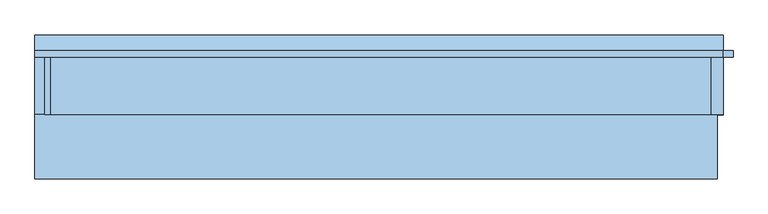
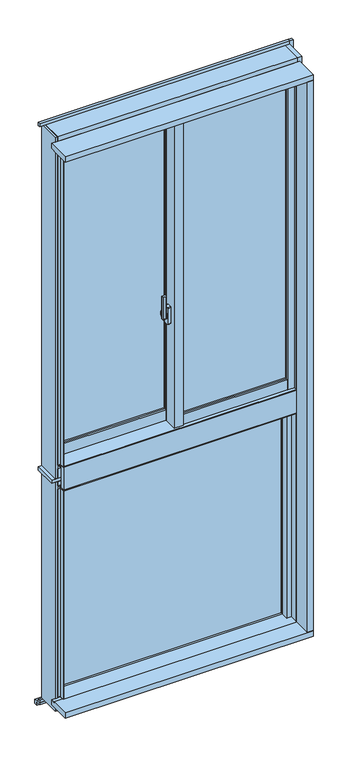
"""IFC4 building model written with IfcOpenShell, lengths in millimetres: window geometry, FNSⅡ100R_非防火_ALC枠_段窓_分解無目 : 隠蔽突出排煙/框ドア."""

import ifcopenshell
import ifcopenshell.guid

model = None  # the IFC model being written
_history = None  # IfcOwnerHistory: only IFC2X3 demands one
_inside = {}  # id of a spatial element -> (the spatial element, [elements in it])
_under = {}  # id of a project, library or spatial element -> (it, [spatial elements below it])
_declared = {}  # id of a project -> (the project, [libraries it declares])
_typed = {}  # id of a type object -> (the type object, [elements of that type])
_made_of = {}  # id of a material, layer set ... -> (it, [elements and type objects made of it])


def new_model(schema):
    """Start an empty IFC model of exactly this schema.

    Asked for "IFC4X3", IfcOpenShell would pick the latest addendum, in which some entities
    have other attributes; the version numbers below select the first issue.
    IFC2X3 requires an IfcOwnerHistory on every rooted entity: one is made here for all.
    """
    global model, _history
    if schema == "IFC4X3":
        model = ifcopenshell.file(schema_version=(4, 3, 0, 0))
    else:
        model = ifcopenshell.file(schema=schema)
    _inside.clear()
    _under.clear()
    _declared.clear()
    _typed.clear()
    _made_of.clear()
    _history = None
    if model.schema == "IFC2X3":
        org = make("IfcOrganization", Name="unknown")
        user = make(
            "IfcPersonAndOrganization",
            ThePerson=make("IfcPerson", FamilyName="unknown"),
            TheOrganization=org,
        )
        app = make(
            "IfcApplication",
            ApplicationDeveloper=org,
            Version="unknown",
            ApplicationFullName="unknown",
            ApplicationIdentifier="unknown",
        )
        _history = make(
            "IfcOwnerHistory",
            OwningUser=user,
            OwningApplication=app,
            ChangeAction="ADDED",
            CreationDate=0,
        )
    return model


def make(cls, **values):
    """One entity of the class cls with the attributes given. An attribute that is None is left unset."""
    return model.create_entity(
        cls, **{name: value for name, value in values.items() if value is not None}
    )


def rooted(cls, **values):
    """An entity with a GlobalId (a new one), such as an element, a storey or a relation."""
    return make(cls, GlobalId=ifcopenshell.guid.new(), OwnerHistory=_history, **values)


def si_unit(unit_type, name, prefix=None):
    """IfcSIUnit, for example si_unit("LENGTHUNIT", "METRE", prefix="MILLI")."""
    return make("IfcSIUnit", UnitType=unit_type, Prefix=prefix, Name=name)


def assignment(units):
    """IfcUnitAssignment: the units of a project."""
    return None if units is None else make("IfcUnitAssignment", Units=units)


def point(xyz):
    """IfcCartesianPoint."""
    return None if xyz is None else make("IfcCartesianPoint", Coordinates=xyz)


def direction(xyz):
    """IfcDirection."""
    return None if xyz is None else make("IfcDirection", DirectionRatios=xyz)


def frame(location, z_axis=None, x_axis=None):
    """IfcAxis2Placement3D, a coordinate frame: its origin and axes. An axis left out is left unset."""
    return make(
        "IfcAxis2Placement3D",
        Location=point(location),
        Axis=direction(z_axis),
        RefDirection=direction(x_axis),
    )


def frame_2d(location, x_axis=None):
    """IfcAxis2Placement2D, a coordinate frame in the plane: its origin and x axis."""
    return make(
        "IfcAxis2Placement2D", Location=point(location), RefDirection=direction(x_axis)
    )


def origin():
    """The frame at (0, 0, 0) with its axes left unset."""
    return frame((0.0, 0.0, 0.0))


def place(relative_to, where):
    """IfcLocalPlacement: puts the frame where relative to a parent placement (None: the world)."""
    return make(
        "IfcLocalPlacement", PlacementRelTo=relative_to, RelativePlacement=where
    )


def context(
    kind, dimensions, precision=None, world=None, true_north=None, identifier=None
):
    """IfcGeometricRepresentationContext, for example the 3D "Model" context."""
    return make(
        "IfcGeometricRepresentationContext",
        ContextIdentifier=identifier,
        ContextType=kind,
        CoordinateSpaceDimension=dimensions,
        Precision=precision,
        WorldCoordinateSystem=world,
        TrueNorth=true_north,
    )


def project(units=None, contexts=None):
    """IfcProject with its units and contexts."""
    return rooted(
        "IfcProject",
        Name="project",
        RepresentationContexts=contexts,
        UnitsInContext=assignment(units),
    )


def spatial(cls, under=None, at=None, **own):
    """A site, building, storey or space (cls), placed at a placement, below another one or the project."""
    s = rooted(cls, ObjectPlacement=at, **own)
    if under is not None:
        _under.setdefault(under.id(), (under, []))[1].append(s)
    return s


def polyline(points):
    """IfcPolyline through the points."""
    return make("IfcPolyline", Points=[point(p) for p in points])


def circle_curve(where, radius):
    """IfcCircle in the frame where."""
    return make("IfcCircle", Position=where, Radius=radius)


def trimmed(basis, trim1, trim2, sense, master):
    """IfcTrimmedCurve: the piece of a basis curve between two trims."""
    return make(
        "IfcTrimmedCurve",
        BasisCurve=basis,
        Trim1=trim1,
        Trim2=trim2,
        SenseAgreement=sense,
        MasterRepresentation=master,
    )


def segment(curve, same_sense, transition):
    """IfcCompositeCurveSegment."""
    return make(
        "IfcCompositeCurveSegment",
        Transition=transition,
        SameSense=same_sense,
        ParentCurve=curve,
    )


def composite_curve(segments, self_intersect=None):
    """IfcCompositeCurve: segments joined end to end."""
    return make("IfcCompositeCurve", Segments=segments, SelfIntersect=self_intersect)


def outline(outer, holes=None, kind="AREA"):
    """IfcArbitraryClosedProfileDef: a profile drawn as a closed curve; with holes, ...WithVoids."""
    if holes is None:
        return make("IfcArbitraryClosedProfileDef", ProfileType=kind, OuterCurve=outer)
    return make(
        "IfcArbitraryProfileDefWithVoids",
        ProfileType=kind,
        OuterCurve=outer,
        InnerCurves=holes,
    )


def extrude(swept, where, along, depth):
    """IfcExtrudedAreaSolid: the profile swept, set in the frame where, extruded along a direction by depth."""
    return make(
        "IfcExtrudedAreaSolid",
        SweptArea=swept,
        Position=where,
        ExtrudedDirection=direction(along),
        Depth=depth,
    )


def faces_of(points, faces, orient=None, outer=None):
    """IfcFace entities. A face is a list of loops; a loop is a list of indices into points, from 0.

    orient and outer hold one flag for each loop. By default every Orientation is true, the
    first loop of a face is its IfcFaceOuterBound and the others are IfcFaceBound.
    """
    made = []
    for i, loops in enumerate(faces):
        bounds = []
        for j, loop in enumerate(loops):
            is_outer = j == 0 if outer is None else outer[i][j]
            bounds.append(
                make(
                    "IfcFaceOuterBound" if is_outer else "IfcFaceBound",
                    Bound=make("IfcPolyLoop", Polygon=[points[k] for k in loop]),
                    Orientation=True if orient is None else orient[i][j],
                )
            )
        made.append(make("IfcFace", Bounds=bounds))
    return made


def faceted_brep(points, faces, orient=None, outer=None, voids=None):
    """IfcFacetedBrep: a solid bounded by flat faces; with voids (closed shells), ...WithVoids."""
    shared = [point(p) for p in points]
    hull = make("IfcClosedShell", CfsFaces=faces_of(shared, faces, orient, outer))
    if voids is None:
        return make("IfcFacetedBrep", Outer=hull)
    return make(
        "IfcFacetedBrepWithVoids",
        Outer=hull,
        Voids=[
            make(cls, CfsFaces=faces_of(shared, fs, o, b)) for cls, fs, o, b in voids
        ],
    )


def shape(context_of_items, identifier, shape_type, items):
    """IfcShapeRepresentation: the items that make up one representation, for example the "Body"."""
    return make(
        "IfcShapeRepresentation",
        ContextOfItems=context_of_items,
        RepresentationIdentifier=identifier,
        RepresentationType=shape_type,
        Items=items,
    )


def source(mapping_origin, context_of_items, identifier, shape_type, items):
    """IfcRepresentationMap: a shape defined once, which mapped items show again and again."""
    return make(
        "IfcRepresentationMap",
        MappingOrigin=mapping_origin,
        MappedRepresentation=shape(context_of_items, identifier, shape_type, items),
    )


def transform(
    local_origin,
    x_axis=None,
    y_axis=None,
    z_axis=None,
    scale=None,
    scale2=None,
    scale3=None,
    uniform=True,
):
    """IfcCartesianTransformationOperator3D, or its non-uniform kind. x_axis, y_axis, z_axis: its Axis1, 2, 3."""
    if uniform:
        return make(
            "IfcCartesianTransformationOperator3D",
            Axis1=direction(x_axis),
            Axis2=direction(y_axis),
            LocalOrigin=point(local_origin),
            Scale=scale,
            Axis3=direction(z_axis),
        )
    return make(
        "IfcCartesianTransformationOperator3DnonUniform",
        Axis1=direction(x_axis),
        Axis2=direction(y_axis),
        LocalOrigin=point(local_origin),
        Scale=scale,
        Axis3=direction(z_axis),
        Scale2=scale2,
        Scale3=scale3,
    )


def mapped(mapping_source, mapping_target):
    """IfcMappedItem: shows the shape of a source again, moved by a transform."""
    return make(
        "IfcMappedItem", MappingSource=mapping_source, MappingTarget=mapping_target
    )


def made_of(thing, what):
    """Note that an element or type object is made of a material, layer set ...; save() writes the relation."""
    if what is not None:
        _made_of.setdefault(what.id(), (what, []))[1].append(thing)
    return thing


def element(
    cls,
    number,
    at=None,
    inside=None,
    cuts=None,
    type_object=None,
    material=None,
    context=None,
    identifier="Body",
    shape_type=None,
    held_by="IfcProductDefinitionShape",
    body=None,
    shapes=None,
    **own,
):
    """One element of the class cls, such as IfcWall. Its Tag is "e" and its number.

    at: its placement. inside: the storey or other place that contains it. cuts: it is an
    opening in that element (IfcRelVoidsElement). A single representation is given by context,
    identifier, shape_type and body (its items); several are given by shapes. held_by: the class
    of the entity that holds the representations. save() writes the other relations.
    """
    e = rooted(cls, Tag="e%d" % number, ObjectPlacement=at, **own)
    if body is not None:
        shapes = [shape(context, identifier, shape_type, body)]
    if shapes is not None:
        e.Representation = make(held_by, Representations=shapes)
    if inside is not None:
        _inside.setdefault(inside.id(), (inside, []))[1].append(e)
    if cuts is not None:
        rooted(
            "IfcRelVoidsElement", RelatingBuildingElement=cuts, RelatedOpeningElement=e
        )
    if type_object is not None:
        _typed.setdefault(type_object.id(), (type_object, []))[1].append(e)
    return made_of(e, material)


def aggregate(whole, parts):
    """IfcRelAggregates: a whole, such as a stair, and the parts it consists of."""
    return rooted("IfcRelAggregates", RelatingObject=whole, RelatedObjects=parts)


def save(model, path):
    """Write the relations noted so far, then the file.

    IfcRelAggregates (storeys below a building ...), IfcRelContainedInSpatialStructure (elements
    in a storey), IfcRelDefinesByType, IfcRelAssociatesMaterial and IfcRelDeclares: one each for
    every whole, place, type object, material and project.
    """
    for whole, parts in _under.values():
        aggregate(whole, parts)
    for where, things in _inside.values():
        rooted(
            "IfcRelContainedInSpatialStructure",
            RelatedElements=things,
            RelatingStructure=where,
        )
    for kind, things in _typed.values():
        rooted("IfcRelDefinesByType", RelatedObjects=things, RelatingType=kind)
    for what, things in _made_of.values():
        rooted("IfcRelAssociatesMaterial", RelatedObjects=things, RelatingMaterial=what)
    for by, libraries in _declared.values():
        rooted("IfcRelDeclares", RelatingContext=by, RelatedDefinitions=libraries)
    model.write(path)


def plane_surface(at):
    """IfcPlane: the flat surface through the origin of the frame at, square to its z axis."""
    return make("IfcPlane", Position=at)


def cylinder_surface(at, radius):
    """IfcCylindricalSurface: all points at the distance radius from the z axis of the frame at."""
    return make("IfcCylindricalSurface", Position=at, Radius=radius)


def revolved_surface(curve, axis_point, axis_direction):
    """IfcSurfaceOfRevolution: the curve turned about the line through axis_point along axis_direction."""
    return make(
        "IfcSurfaceOfRevolution",
        SweptCurve=make("IfcArbitraryOpenProfileDef", ProfileType="CURVE", Curve=curve),
        AxisPosition=make("IfcAxis1Placement", Location=point(axis_point), Axis=direction(axis_direction)),
    )


def advanced_brep(points, edges, surfaces, faces):
    """IfcAdvancedBrep: a solid bounded by faces that lie on surfaces and meet in shared edges.

    An edge is (start, end): straight between two places in points (the first is 0);
    or (start, end, curve); or (start, end, curve, False) where it runs against its curve.
    A face is (place in surfaces, loops), or (place, loops, False) where it looks against
    its surface's normal. A loop lists edges by number (the first is 1), with a minus sign
    where the edge is run from its end to its start. The first loop is the outer one.
    """
    corners = [point(p) for p in points]
    vertices = [make("IfcVertexPoint", VertexGeometry=c) for c in corners]
    made = []
    for start, end, *more in edges:
        made.append(
            make(
                "IfcEdgeCurve",
                EdgeStart=vertices[start],
                EdgeEnd=vertices[end],
                EdgeGeometry=more[0] if more else make("IfcPolyline", Points=[corners[start], corners[end]]),
                SameSense=more[1] if len(more) > 1 else True,
            )
        )
    hull = []
    for where, loops, *sense in faces:
        bounds = []
        for j, loop in enumerate(loops):
            ring = [make("IfcOrientedEdge", EdgeElement=made[abs(k) - 1], Orientation=k > 0) for k in loop]
            bounds.append(
                make(
                    "IfcFaceOuterBound" if j == 0 else "IfcFaceBound",
                    Bound=make("IfcEdgeLoop", EdgeList=ring),
                    Orientation=True,
                )
            )
        hull.append(make("IfcAdvancedFace", Bounds=bounds, FaceSurface=surfaces[where], SameSense=sense[0] if sense else True))
    return make("IfcAdvancedBrep", Outer=make("IfcClosedShell", CfsFaces=hull))


def window_2282232d(model_context):
    return source(origin(), model_context, "Body", "SolidModel", [
        extrude(outline(composite_curve([segment(polyline([(-39.0, 14.6), (-39.0, 6.4)]), True, "CONTINUOUS"), segment(trimmed(circle_curve(frame_2d((-41.0, 6.4)), 2.0), [point((-39.0, 6.4))], [point((-41.3606557, 4.4327869))], False, "CARTESIAN"), True, "CONTINUOUS"), segment(polyline([(-41.3606557, 4.4327869), (-52.3606557, 6.4494536)]), True, "CONTINUOUS"), segment(trimmed(circle_curve(frame_2d((-52.0, 8.4166667)), 2.0), [point((-52.3606557, 6.4494536))], [point((-54.0, 8.4166667))], False, "CARTESIAN"), True, "CONTINUOUS"), segment(polyline([(-54.0, 8.4166667), (-54.0, 12.5833333)]), True, "CONTINUOUS"), segment(trimmed(circle_curve(frame_2d((-52.0, 12.5833333)), 2.0), [point((-54.0, 12.5833333))], [point((-52.3606557, 14.5505464))], False, "CARTESIAN"), True, "CONTINUOUS"), segment(polyline([(-52.3606557, 14.5505464), (-41.3606557, 16.5672131)]), True, "CONTINUOUS"), segment(trimmed(circle_curve(frame_2d((-41.0, 14.6)), 2.0), [point((-41.3606557, 16.5672131))], [point((-39.0, 14.6))], False, "CARTESIAN"), True, "CONTINUOUS")], self_intersect=False)), frame((0.0, 0.0, 2445.0), z_axis=(0.0, 0.0, 1.0), x_axis=(1.0, 0.0, 0.0)), (0.0, 0.0, 1.0), 100.0),
        advanced_brep(
        [(-37.5, 18.8234285, 2476.7333311), (-45.5, 18.8234285, 2476.7333311), (-45.5, 18.4351999, 2475.2844424), (-39.0, 18.4351999, 2475.2844424), (-39.0, 16.6234666, 2468.5229616), (-37.5, 16.6234666, 2468.5229616), (-39.0, 16.6466117, 2434.3190372), (-45.5, 16.6466117, 2434.3190372), (-45.5, 16.907084, 2432.8418256), (-37.5, 16.907084, 2432.8418256), (-37.5, 15.4310745, 2441.2126915), (-39.0, 15.4310745, 2441.2126915)],
        [
            (0, 1),
            (1, 2),
            (2, 3),
            (3, 4),
            (4, 5),
            (5, 0),
            (6, 7),
            (7, 8),
            (8, 9),
            (9, 10),
            (10, 11),
            (11, 6),
            (0, 9, circle_curve(frame((-37.5, 13.0, 2455.0), z_axis=(-1.0, 0.0, 0.0), x_axis=(0.0, 0.25881904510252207, 0.965925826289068)), 22.5)),
            (8, 1, circle_curve(frame((-45.5, 13.0, 2455.0), z_axis=(1.0, 0.0, 0.0), x_axis=(0.0, 0.25881904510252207, 0.965925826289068)), 22.5)),
            (7, 2, circle_curve(frame((-45.5, 13.0, 2455.0), z_axis=(1.0, 0.0, 0.0), x_axis=(0.0, 0.25881904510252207, 0.965925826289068)), 21.0)),
            (6, 3, circle_curve(frame((-39.0, 13.0, 2455.0), z_axis=(1.0, 0.0, 0.0), x_axis=(0.0, 0.25881904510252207, 0.965925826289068)), 21.0)),
            (11, 4, circle_curve(frame((-39.0, 13.0, 2455.0), z_axis=(-1.0, 0.0, 0.0), x_axis=(0.0, -1.0, 0.0)), 14.0)),
            (5, 10, circle_curve(frame((-37.5, 13.0, 2455.0), z_axis=(1.0, 0.0, 0.0), x_axis=(0.0, -1.0, 0.0)), 14.0)),
        ],
        [
            plane_surface(frame((-43.5470497, 13.0, 2455.0), z_axis=(0.0, -0.965925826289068, 0.25881904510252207), x_axis=(0.0, 0.25881904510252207, 0.965925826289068))),
            plane_surface(frame((-43.5470497, 13.0, 2455.0), z_axis=(0.0, -0.9848077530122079, -0.17364817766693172), x_axis=(0.0, 0.17364817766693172, -0.9848077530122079))),
            cylinder_surface(frame((-43.5470497, 13.0, 2455.0), z_axis=(-1.0, 0.0, 0.0), x_axis=(0.0, 0.25881904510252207, 0.965925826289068)), 22.5),
            plane_surface(frame((-45.5, 13.0, 2455.0), z_axis=(-1.0, 0.0, 0.0), x_axis=(0.0, 0.25881904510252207, 0.965925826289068))),
            revolved_surface(polyline([(-45.5, 18.435199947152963, 2475.2844423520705), (-39.0, 18.435199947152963, 2475.2844423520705)]), (-43.5470497, 13.0, 2455.0), (-1.0, 0.0, 0.0)),
            plane_surface(frame((-39.0, 13.0, 2455.0), z_axis=(-1.0, 0.0, 0.0), x_axis=(0.0, 0.25881904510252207, 0.965925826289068))),
            plane_surface(frame((-37.5, 13.0, 2455.0), z_axis=(1.0, 0.0, 0.0), x_axis=(0.0, 0.25881904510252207, 0.965925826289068))),
            cylinder_surface(frame((-37.5, 13.0, 2455.0), z_axis=(-1.0, 0.0, 0.0), x_axis=(0.0, -1.0, 0.0)), 14.0),
        ],
        [
            (0, [[1, 2, 3, 4, 5, 6]]),
            (1, [[7, 8, 9, 10, 11, 12]]),
            (2, [[-1, 13, -9, 14]]),
            (3, [[-2, -14, -8, 15]]),
            (4, [[-3, -15, -7, 16]]),
            (5, [[-16, -12, 17, -4]]),
            (6, [[-13, -6, 18, -10]]),
            (7, [[-17, -11, -18, -5]]),
        ],
    ),
        extrude(outline(composite_curve([segment(trimmed(circle_curve(frame_2d((13.0, 2455.0)), 11.5), [point((24.5, 2455.0))], [point((1.5, 2455.0))], False, "CARTESIAN"), True, "CONTINUOUS"), segment(trimmed(circle_curve(frame_2d((13.0, 2455.0)), 11.5), [point((1.5, 2455.0))], [point((24.5, 2455.0))], False, "CARTESIAN"), True, "CONTINUOUS")], self_intersect=False)), frame((-37.5, 0.0, 0.0), z_axis=(1.0, 0.0, 0.0), x_axis=(0.0, 1.0, 0.0)), (0.0, 0.0, 1.0), 2.5),
        extrude(outline(composite_curve([segment(polyline([(4.0, 2492.5), (22.0, 2492.5)]), True, "CONTINUOUS"), segment(trimmed(circle_curve(frame_2d((22.0, 2490.5)), 2.0), [point((22.0, 2492.5))], [point((24.0, 2490.5))], False, "CARTESIAN"), True, "CONTINUOUS"), segment(polyline([(24.0, 2490.5), (24.0, 2419.5)]), True, "CONTINUOUS"), segment(trimmed(circle_curve(frame_2d((22.0, 2419.5)), 2.0), [point((24.0, 2419.5))], [point((22.0, 2417.5))], False, "CARTESIAN"), True, "CONTINUOUS"), segment(polyline([(22.0, 2417.5), (4.0, 2417.5)]), True, "CONTINUOUS"), segment(trimmed(circle_curve(frame_2d((4.0, 2419.5)), 2.0), [point((4.0, 2417.5))], [point((2.0, 2419.5))], False, "CARTESIAN"), True, "CONTINUOUS"), segment(polyline([(2.0, 2419.5), (2.0, 2490.5)]), True, "CONTINUOUS"), segment(trimmed(circle_curve(frame_2d((4.0, 2490.5)), 2.0), [point((2.0, 2490.5))], [point((4.0, 2492.5))], False, "CARTESIAN"), True, "CONTINUOUS")], self_intersect=False)), frame((-35.0, 0.0, 0.0), z_axis=(1.0, 0.0, 0.0), x_axis=(0.0, 1.0, 0.0)), (0.0, 0.0, 1.0), 15.0),
        extrude(outline(polyline([(20.0, 4.0), (468.0, 4.0), (468.0, -2.0), (20.0, -2.0), (20.0, 4.0)])), frame((0.0, 0.0, 2003.0), z_axis=(0.0, 0.0, 1.0), x_axis=(1.0, 0.0, 0.0)), (0.0, 0.0, 1.0), 1357.0),
        extrude(outline(polyline([(20.0, 22.0), (468.0, 22.0), (468.0, 16.0), (20.0, 16.0), (20.0, 22.0)])), frame((0.0, 0.0, 2003.0), z_axis=(0.0, 0.0, 1.0), x_axis=(1.0, 0.0, 0.0)), (0.0, 0.0, 1.0), 1357.0),
        extrude(outline(polyline([(-468.0, 62.0), (-20.0, 62.0), (-20.0, 56.0), (-468.0, 56.0), (-468.0, 62.0)])), frame((0.0, 0.0, 2003.0), z_axis=(0.0, 0.0, 1.0), x_axis=(1.0, 0.0, 0.0)), (0.0, 0.0, 1.0), 1357.0),
        extrude(outline(polyline([(-468.0, 80.0), (-20.0, 80.0), (-20.0, 74.0), (-468.0, 74.0), (-468.0, 80.0)])), frame((0.0, 0.0, 2003.0), z_axis=(0.0, 0.0, 1.0), x_axis=(1.0, 0.0, 0.0)), (0.0, 0.0, 1.0), 1357.0),
        faceted_brep([(-489.5, 59.0, 3400.0), (-500.0, 59.0, 3400.0), (-500.0, 59.0, 1915.0), (-468.0, 59.0, 1915.0), (-468.0, 59.0, 1955.0), (-489.5, 59.0, 1955.0), (-489.5, 46.0, 3400.0), (-489.5, 46.0, 1955.0), (-468.0, 88.0, 3400.0), (-468.0, 46.0, 3400.0), (-468.0, 46.0, 1955.0), (-468.0, 88.0, 1915.0), (-500.0, 88.0, 3400.0), (-500.0, 88.0, 1915.0)], [[[0, 1, 2, 3, 4, 5]], [[6, 0, 5, 7]], [[8, 9, 10, 4, 3, 11]], [[1, 0, 6, 9, 8, 12]], [[3, 2, 13, 11]], [[9, 6, 7, 10]], [[12, 8, 11, 13]], [[2, 1, 12, 13]], [[5, 4, 10, 7]]]),
        faceted_brep([(-1.8, 33.1, 3400.0), (-1.8, 45.5, 3400.0), (-1.8, 45.5, 1955.0), (-1.8, 33.1, 1955.0), (-20.0, 45.5, 3400.0), (20.0, 33.1, 3400.0), (20.0, 88.0, 3400.0), (-20.0, 88.0, 3400.0), (-20.0, 88.0, 1915.0), (20.0, 88.0, 1915.0), (20.0, 59.0, 1915.0), (-20.0, 59.0, 1915.0), (-20.0, 45.5, 1955.0), (20.0, 33.1, 1955.0), (20.0, 59.0, 1955.0), (-20.0, 59.0, 1955.0)], [[[0, 1, 2, 3]], [[4, 1, 0, 5, 6, 7]], [[8, 9, 10, 11]], [[1, 4, 12, 2]], [[5, 0, 3, 13]], [[6, 5, 13, 14, 10, 9]], [[7, 6, 9, 8]], [[4, 7, 8, 11, 15, 12]], [[14, 15, 11, 10]], [[15, 14, 13, 3, 2, 12]]]),
        extrude(outline(polyline([(-20.0, 33.1), (-15.0, 33.1), (-15.0, -12.0), (15.0, -12.0), (15.0, -8.0), (20.0, -8.0), (20.0, -20.0), (-20.0, -20.0), (-20.0, 33.1)])), frame((0.0, 0.0, 1955.0), z_axis=(0.0, 0.0, 1.0), x_axis=(1.0, 0.0, 0.0)), (0.0, 0.0, 1.0), 1445.0),
        extrude(outline(polyline([(-15.0, 33.1), (20.0, 33.1), (20.0, -8.0), (15.0, -8.0), (15.0, -12.0), (-15.0, -12.0), (-15.0, 33.1)])), frame((0.0, 0.0, 1955.0), z_axis=(0.0, 0.0, 1.0), x_axis=(1.0, 0.0, 0.0)), (0.0, 0.0, 1.0), 1445.0),
        extrude(outline(polyline([(468.0, -20.0), (468.0, -12.0), (489.5, -12.0), (489.5, 1.0), (497.0, 1.0), (497.0, -20.0), (468.0, -20.0)])), frame((0.0, 0.0, 1958.0), z_axis=(0.0, 0.0, 1.0), x_axis=(1.0, 0.0, 0.0)), (0.0, 0.0, 1.0), 1442.0),
        extrude(outline(polyline([(468.0, 30.0), (500.0, 30.0), (500.0, 1.0), (489.5, 1.0), (489.5, -12.0), (468.0, -12.0), (468.0, 30.0)])), frame((0.0, 0.0, 1955.0), z_axis=(0.0, 0.0, 1.0), x_axis=(1.0, 0.0, 0.0)), (0.0, 0.0, 1.0), 1445.0),
        extrude(outline(polyline([(-1.85, 45.5), (-1.85, 38.0), (-20.0, 38.0), (-20.0, 45.5), (-1.85, 45.5)])), frame((0.0, 0.0, 1955.0), z_axis=(0.0, 0.0, 1.0), x_axis=(1.0, 0.0, 0.0)), (0.0, 0.0, 1.0), 1445.0),
        extrude(outline(polyline([(-497.0, 59.0), (-489.5, 59.0), (-489.5, 46.0), (-468.0, 46.0), (-468.0, 38.0), (-497.0, 38.0), (-497.0, 59.0)])), frame((0.0, 0.0, 1955.0), z_axis=(0.0, 0.0, 1.0), x_axis=(1.0, 0.0, 0.0)), (0.0, 0.0, 1.0), 1445.0),
        extrude(outline(polyline([(-18.0, 1958.0), (-18.0, 2003.0), (-10.0, 2003.0), (-10.0, 1980.5), (1.0, 1980.5), (1.0, 1958.0), (-18.0, 1958.0)])), frame((20.0, 0.0, 0.0), z_axis=(1.0, 0.0, 0.0), x_axis=(0.0, 1.0, 0.0)), (0.0, 0.0, 1.0), 448.0),
        extrude(outline(polyline([(30.0, 1955.0), (1.0, 1955.0), (1.0, 1980.5), (-10.0, 1980.5), (-10.0, 2003.0), (30.0, 2003.0), (30.0, 1955.0)])), frame((20.0, 0.0, 0.0), z_axis=(1.0, 0.0, 0.0), x_axis=(0.0, 1.0, 0.0)), (0.0, 0.0, 1.0), 448.0),
        extrude(outline(polyline([(40.0, 2003.0), (48.0, 2003.0), (48.0, 1980.5), (59.0, 1980.5), (59.0, 1955.0), (40.0, 1955.0), (40.0, 2003.0)])), frame((-468.0, 0.0, 0.0), z_axis=(1.0, 0.0, 0.0), x_axis=(0.0, 1.0, 0.0)), (0.0, 0.0, 1.0), 448.0),
        extrude(outline(polyline([(88.0, 1915.0), (59.0, 1915.0), (59.0, 1980.5), (48.0, 1980.5), (48.0, 2003.0), (88.0, 2003.0), (88.0, 1915.0)])), frame((-468.0, 0.0, 0.0), z_axis=(1.0, 0.0, 0.0), x_axis=(0.0, 1.0, 0.0)), (0.0, 0.0, 1.0), 448.0),
        extrude(outline(polyline([(3.0, 3380.5), (-10.0, 3380.5), (-10.0, 3360.0), (-18.0, 3360.0), (-18.0, 3400.0), (3.0, 3400.0), (3.0, 3380.5)])), frame((20.0, 0.0, 0.0), z_axis=(1.0, 0.0, 0.0), x_axis=(0.0, 1.0, 0.0)), (0.0, 0.0, 1.0), 448.0),
        extrude(outline(polyline([(30.0, 3400.0), (30.0, 3360.0), (-10.0, 3360.0), (-10.0, 3380.5), (3.0, 3380.5), (3.0, 3400.0), (30.0, 3400.0)])), frame((20.0, 0.0, 0.0), z_axis=(1.0, 0.0, 0.0), x_axis=(0.0, 1.0, 0.0)), (0.0, 0.0, 1.0), 448.0),
        extrude(outline(polyline([(61.0, 3380.5), (48.0, 3380.5), (48.0, 3360.0), (40.0, 3360.0), (40.0, 3400.0), (61.0, 3400.0), (61.0, 3380.5)])), frame((-468.0, 0.0, 0.0), z_axis=(1.0, 0.0, 0.0), x_axis=(0.0, 1.0, 0.0)), (0.0, 0.0, 1.0), 448.0),
        extrude(outline(polyline([(88.0, 3400.0), (88.0, 3360.0), (48.0, 3360.0), (48.0, 3380.5), (61.0, 3380.5), (61.0, 3400.0), (88.0, 3400.0)])), frame((-468.0, 0.0, 0.0), z_axis=(1.0, 0.0, 0.0), x_axis=(0.0, 1.0, 0.0)), (0.0, 0.0, 1.0), 448.0),
        extrude(outline(polyline([(-15.0, 60.3), (-15.0, 11.9), (-500.0, 11.9), (-500.0, 60.3), (-15.0, 60.3)])), frame((0.0, 0.0, 3400.0), z_axis=(0.0, 0.0, 1.0), x_axis=(1.0, 0.0, 0.0)), (0.0, 0.0, 1.0), 25.0),
        faceted_brep([(515.0, -10.0, 3425.0), (515.0, -10.0, 3445.0), (-515.0, -10.0, 3445.0), (-515.0, -10.0, 3425.0), (-515.0, 90.0, 3400.0), (-515.0, 60.3, 3400.0), (-515.0, 60.3, 3425.0), (-515.0, 90.0, 3445.0), (515.0, 60.3, 3425.0), (-15.0, 60.3, 3425.0), (-15.0, 11.9, 3425.0), (500.0, 11.9, 3425.0), (500.0, 60.3, 3425.0), (-15.0, 60.3, 3400.0), (515.0, 60.3, 3400.0), (500.0, 60.3, 3400.0), (515.0, 90.0, 3400.0), (500.0, 11.9, 3400.0), (-15.0, 11.9, 3400.0), (515.0, 90.0, 3445.0)], [[[0, 1, 2, 3]], [[4, 5, 6, 3, 2, 7]], [[8, 0, 3, 6, 9, 10, 11, 12]], [[6, 5, 13, 9]], [[14, 8, 12, 15]], [[16, 14, 15, 17, 18, 13, 5, 4]], [[19, 16, 4, 7]], [[1, 19, 7, 2]], [[16, 19, 1, 0, 8, 14]], [[11, 17, 15, 12]], [[13, 18, 10, 9]], [[17, 11, 10, 18]]]),
        extrude(outline(polyline([(11.9, 3400.0), (-30.0, 3400.0), (-30.0, 3403.0), (-10.0, 3403.0), (-10.0, 3425.0), (11.9, 3425.0), (11.9, 3400.0)])), frame((-500.0, 0.0, 0.0), z_axis=(1.0, 0.0, 0.0), x_axis=(0.0, 1.0, 0.0)), (0.0, 0.0, 1.0), 1000.0),
        faceted_brep([(500.0, -10.0, 3420.0), (515.0, -10.0, 3420.0), (515.0, -5.5, 3420.0), (500.0, -5.5, 3420.0), (500.0, -30.0, 1955.0), (503.0, -30.0, 1955.0), (503.0, -30.0, 3403.0), (500.0, -30.0, 3403.0), (515.0, -5.5, 1955.0), (500.0, -5.5, 1955.0), (500.0, -10.0, 3403.0), (503.0, -10.0, 3403.0), (515.0, -10.0, 1955.0), (503.0, -10.0, 1955.0)], [[[0, 1, 2, 3]], [[4, 5, 6, 7]], [[3, 2, 8, 9]], [[9, 4, 7, 10, 0, 3]], [[11, 10, 7, 6]], [[4, 9, 8, 12, 13, 5]], [[5, 13, 11, 6]], [[0, 10, 11, 13, 12, 1]], [[2, 1, 12, 8]]]),
        faceted_brep([(-515.0, -10.0, 1955.0), (-503.0, -10.0, 1955.0), (-503.0, -10.0, 3403.0), (-500.0, -10.0, 3403.0), (-500.0, -10.0, 3420.0), (-515.0, -10.0, 3420.0), (-503.0, -30.0, 3403.0), (-500.0, -30.0, 3403.0), (-515.0, 56.0, 3420.0), (-500.0, 56.0, 3420.0), (-500.0, 56.0, 1955.0), (-515.0, 56.0, 1955.0), (-500.0, -30.0, 1955.0), (-503.0, -30.0, 1955.0)], [[[0, 1, 2, 3, 4, 5]], [[3, 2, 6, 7]], [[8, 9, 10, 11]], [[5, 4, 9, 8]], [[0, 11, 10, 12, 13, 1]], [[1, 13, 6, 2]], [[13, 12, 7, 6]], [[12, 10, 9, 4, 3, 7]], [[0, 5, 8, 11]]]),
        faceted_brep([(515.0, -5.5, 3400.0), (500.0, -5.5, 3400.0), (500.0, -5.5, 1904.0), (515.0, -5.5, 1904.0), (515.0, 90.0, 3445.0), (535.0, 90.0, 3445.0), (535.0, 90.0, 1895.0), (515.0, 90.0, 1895.0), (515.0, 90.0, 1904.0), (500.0, 90.0, 1904.0), (500.0, 90.0, 3400.0), (515.0, 90.0, 3400.0), (515.0, -10.0, 3445.0), (515.0, -10.0, 1895.0), (535.0, -10.0, 3445.0), (535.0, -10.0, 1895.0)], [[[0, 1, 2, 3]], [[4, 5, 6, 7, 8, 9, 10, 11]], [[12, 4, 11, 0, 3, 8, 7, 13]], [[12, 14, 5, 4]], [[13, 7, 6, 15]], [[2, 9, 8, 3]], [[1, 10, 9, 2]], [[1, 0, 11, 10]], [[14, 12, 13, 15]], [[5, 14, 15, 6]]]),
        faceted_brep([(-500.0, 56.0, 3400.0), (-515.0, 56.0, 3400.0), (-515.0, 56.0, 1904.0), (-500.0, 56.0, 1904.0), (-525.0, 90.0, 3445.0), (-525.0, -10.0, 3445.0), (-515.0, -10.0, 3445.0), (-515.0, 90.0, 3445.0), (-525.0, 90.0, 1895.0), (-515.0, 90.0, 1895.0), (-515.0, -10.0, 1895.0), (-525.0, -10.0, 1895.0), (-500.0, 90.0, 1904.0), (-515.0, 90.0, 1904.0), (-515.0, 90.0, 3400.0), (-500.0, 90.0, 3400.0)], [[[0, 1, 2, 3]], [[4, 5, 6, 7]], [[8, 9, 10, 11]], [[6, 5, 11, 10]], [[12, 3, 2, 13]], [[5, 4, 8, 11]], [[7, 6, 10, 9, 13, 2, 1, 14]], [[4, 7, 14, 15, 12, 13, 9, 8]], [[15, 14, 1, 0]], [[15, 0, 3, 12]]]),
        faceted_brep([(515.0, 56.0, 1939.0), (515.0, 56.0, 1904.0), (-515.0, 56.0, 1904.0), (-515.0, 56.0, 1939.0), (515.0, 90.0, 1904.0), (-515.0, 90.0, 1904.0), (515.0, 90.0, 1895.0), (515.0, -10.0, 1895.0), (-515.0, -10.0, 1895.0), (-515.0, 90.0, 1895.0), (515.0, -10.0, 1939.0), (-515.0, -10.0, 1939.0), (500.0, 17.25, 1939.0), (500.0, -1.2, 1939.0), (-15.0, -1.2, 1939.0), (-15.0, 17.25, 1939.0), (500.0, -1.2, 1955.0), (500.0, 17.25, 1955.0), (-15.0, -1.2, 1955.0), (-15.0, 17.25, 1955.0)], [[[0, 1, 2, 3]], [[1, 4, 5, 2]], [[6, 7, 8, 9]], [[10, 0, 3, 11], [12, 13, 14, 15]], [[6, 4, 1, 0, 10, 7]], [[9, 8, 11, 3, 2, 5]], [[7, 10, 11, 8]], [[4, 6, 9, 5]], [[16, 13, 12, 17]], [[18, 19, 15, 14]], [[13, 16, 18, 14]], [[17, 12, 15, 19]], [[16, 17, 19, 18]]]),
        faceted_brep([(503.0, -30.0, 1955.0), (503.0, -30.0, 1952.0), (503.0, -10.0, 1952.0), (503.0, -10.0, 1939.0), (503.0, -5.5, 1939.0), (503.0, -5.5, 1955.0), (-503.0, -10.0, 1939.0), (-503.0, -10.0, 1952.0), (-503.0, -30.0, 1952.0), (-503.0, -30.0, 1955.0), (-503.0, -1.2, 1955.0), (-503.0, -1.2, 1939.0), (500.0, -5.5, 1955.0), (500.0, -1.2, 1955.0), (-15.0, -1.2, 1955.0), (-15.0, 56.0, 1955.0), (-500.0, 56.0, 1955.0), (-500.0, -1.2, 1955.0), (-500.0, -1.2, 1939.0), (-500.0, 56.0, 1939.0), (-15.0, 56.0, 1939.0), (-15.0, -1.2, 1939.0), (500.0, -1.2, 1939.0), (500.0, -5.5, 1939.0)], [[[0, 1, 2, 3, 4, 5]], [[6, 7, 8, 9, 10, 11]], [[3, 2, 7, 6]], [[2, 1, 8, 7]], [[1, 0, 9, 8]], [[10, 9, 0, 5, 12, 13, 14, 15, 16, 17]], [[6, 11, 18, 19, 20, 21, 22, 23, 4, 3]], [[13, 22, 21, 14]], [[11, 10, 17, 18]], [[12, 23, 22, 13]], [[23, 12, 5, 4]], [[15, 14, 21, 20]], [[16, 19, 18, 17]], [[15, 20, 19, 16]]]),
        extrude(outline(polyline([(-480.0, 55.6), (480.0, 55.6), (480.0, 49.6), (-480.0, 49.6), (-480.0, 55.6)])), frame((0.0, 0.0, 900.0), z_axis=(0.0, 0.0, 1.0), x_axis=(1.0, 0.0, 0.0)), (0.0, 0.0, 1.0), 925.0),
        extrude(outline(polyline([(-480.0, 73.6), (480.0, 73.6), (480.0, 67.6), (-480.0, 67.6), (-480.0, 73.6)])), frame((0.0, 0.0, 900.0), z_axis=(0.0, 0.0, 1.0), x_axis=(1.0, 0.0, 0.0)), (0.0, 0.0, 1.0), 925.0),
        faceted_brep([(-525.0, 90.0, 840.0), (-515.0, 90.0, 840.0), (-515.0, -10.0, 840.0), (-525.0, -10.0, 840.0), (-515.0, -10.0, 1880.0), (-525.0, -10.0, 1880.0), (-515.0, 90.0, 1880.0), (-515.0, 90.0, 900.0), (-515.0, 40.0, 900.0), (-515.0, 40.0, 1825.0), (-515.0, 90.0, 1825.0), (-525.0, 90.0, 1880.0), (-480.0, 90.0, 1825.0), (-480.0, 90.0, 900.0), (-480.0, 40.0, 900.0), (-480.0, 40.0, 1825.0)], [[[0, 1, 2, 3]], [[4, 5, 3, 2]], [[6, 4, 2, 1, 7, 8, 9, 10]], [[11, 6, 10, 12, 13, 7, 1, 0]], [[13, 14, 8, 7]], [[11, 5, 4, 6]], [[5, 11, 0, 3]], [[12, 10, 9, 15]], [[15, 9, 8, 14]], [[12, 15, 14, 13]]]),
        faceted_brep([(535.0, 90.0, 840.0), (535.0, -10.0, 840.0), (515.0, -10.0, 840.0), (515.0, 90.0, 840.0), (515.0, 90.0, 1880.0), (535.0, 90.0, 1880.0), (515.0, 90.0, 900.0), (480.0, 90.0, 900.0), (480.0, 90.0, 1825.0), (515.0, 90.0, 1825.0), (515.0, -10.0, 1880.0), (515.0, 40.0, 1825.0), (515.0, 40.0, 900.0), (480.0, 40.0, 900.0), (535.0, -10.0, 1880.0), (480.0, 40.0, 1825.0)], [[[0, 1, 2, 3]], [[4, 5, 0, 3, 6, 7, 8, 9]], [[10, 4, 9, 11, 12, 6, 3, 2]], [[12, 13, 7, 6]], [[5, 4, 10, 14]], [[14, 10, 2, 1]], [[5, 14, 1, 0]], [[9, 8, 15, 11]], [[15, 8, 7, 13]], [[11, 15, 13, 12]]]),
        extrude(outline(polyline([(500.0, -30.0), (500.0, 8.5), (480.0, 8.5), (480.0, 40.0), (515.0, 40.0), (515.0, -10.0), (503.0, -10.0), (503.0, -30.0), (500.0, -30.0)])), frame((0.0, 0.0, 900.0), z_axis=(0.0, 0.0, 1.0), x_axis=(1.0, 0.0, 0.0)), (0.0, 0.0, 1.0), 945.0),
        extrude(outline(polyline([(-515.0, -10.0), (-515.0, 40.0), (-480.0, 40.0), (-480.0, 8.5), (-500.0, 8.5), (-500.0, -30.0), (-503.0, -30.0), (-503.0, -10.0), (-515.0, -10.0)])), frame((0.0, 0.0, 900.0), z_axis=(0.0, 0.0, 1.0), x_axis=(1.0, 0.0, 0.0)), (0.0, 0.0, 1.0), 945.0),
        extrude(outline(polyline([(-10.0, 884.0), (-10.0, 897.0), (-30.0, 897.0), (-30.0, 900.0), (40.0, 900.0), (40.0, 884.0), (-10.0, 884.0)])), frame((-503.0, 0.0, 0.0), z_axis=(1.0, 0.0, 0.0), x_axis=(0.0, 1.0, 0.0)), (0.0, 0.0, 1.0), 1006.0),
        extrude(outline(polyline([(90.0, 840.0), (-10.0, 840.0), (-10.0, 884.0), (40.0, 884.0), (40.0, 900.0), (90.0, 900.0), (90.0, 870.0), (71.0, 870.0), (71.0, 850.0), (90.0, 850.0), (90.0, 840.0)])), frame((-515.0, 0.0, 0.0), z_axis=(1.0, 0.0, 0.0), x_axis=(0.0, 1.0, 0.0)), (0.0, 0.0, 1.0), 1030.0),
        extrude(outline(polyline([(40.0, 1822.0), (6.0, 1822.0), (6.0, 1845.0), (-30.0, 1845.0), (-30.0, 1848.0), (-10.0, 1848.0), (-10.0, 1860.0), (40.0, 1860.0), (40.0, 1822.0)])), frame((-503.0, 0.0, 0.0), z_axis=(1.0, 0.0, 0.0), x_axis=(0.0, 1.0, 0.0)), (0.0, 0.0, 1.0), 1006.0),
        extrude(outline(polyline([(90.0, 1825.0), (40.0, 1825.0), (40.0, 1860.0), (-10.0, 1860.0), (-10.0, 1880.0), (90.0, 1880.0), (90.0, 1825.0)])), frame((-515.0, 0.0, 0.0), z_axis=(1.0, 0.0, 0.0), x_axis=(0.0, 1.0, 0.0)), (0.0, 0.0, 1.0), 1030.0),
        extrude(outline(polyline([(-110.0, 900.0), (-30.0, 900.0), (-30.0, 897.0), (-10.0, 897.0), (-10.0, 875.0), (-110.0, 875.0), (-110.0, 900.0)])), frame((-540.0, 0.0, 0.0), z_axis=(1.0, 0.0, 0.0), x_axis=(0.0, 1.0, 0.0)), (0.0, 0.0, 1.0), 1065.0),
        extrude(outline(polyline([(-540.0, 80.0), (-540.0, 90.0), (535.0, 90.0), (535.0, 80.0), (-540.0, 80.0)])), frame((0.0, 0.0, 830.0), z_axis=(0.0, 0.0, 1.0), x_axis=(1.0, 0.0, 0.0)), (0.0, 0.0, 1.0), 10.0),
        extrude(outline(polyline([(100.0, 807.0), (100.0, 820.0), (80.0, 820.0), (80.0, 830.0), (90.0, 830.0), (115.0, 825.0), (115.0, 807.0), (100.0, 807.0)])), frame((-540.0, 0.0, 0.0), z_axis=(1.0, 0.0, 0.0), x_axis=(0.0, 1.0, 0.0)), (0.0, 0.0, 1.0), 1075.0),
        extrude(outline(polyline([(525.0, -10.0), (525.0, -110.0), (500.0, -110.0), (500.0, -30.0), (503.0, -30.0), (503.0, -10.0), (525.0, -10.0)])), frame((0.0, 0.0, 900.0), z_axis=(0.0, 0.0, 1.0), x_axis=(1.0, 0.0, 0.0)), (0.0, 0.0, 1.0), 2500.0),
        extrude(outline(polyline([(550.0, 90.0), (550.0, 80.0), (535.0, 80.0), (535.0, 90.0), (550.0, 90.0)])), frame((0.0, 0.0, 820.0), z_axis=(0.0, 0.0, 1.0), x_axis=(1.0, 0.0, 0.0)), (0.0, 0.0, 1.0), 2640.0),
        extrude(outline(polyline([(-110.0, 3425.0), (-10.0, 3425.0), (-10.0, 3403.0), (-30.0, 3403.0), (-30.0, 3400.0), (-110.0, 3400.0), (-110.0, 3425.0)])), frame((-540.0, 0.0, 0.0), z_axis=(1.0, 0.0, 0.0), x_axis=(0.0, 1.0, 0.0)), (0.0, 0.0, 1.0), 1065.0),
        extrude(outline(polyline([(-500.0, -30.0), (-500.0, -10.0), (500.0, -10.0), (500.0, -30.0), (-500.0, -30.0)])), frame((0.0, 0.0, 1848.0), z_axis=(0.0, 0.0, 1.0), x_axis=(1.0, 0.0, 0.0)), (0.0, 0.0, 1.0), 104.0),
        extrude(outline(polyline([(-540.0, -10.0), (-540.0, 90.0), (535.0, 90.0), (535.0, -10.0), (-540.0, -10.0)])), frame((0.0, 0.0, 1880.0), z_axis=(0.0, 0.0, 1.0), x_axis=(1.0, 0.0, 0.0)), (0.0, 0.0, 1.0), 15.0),
        extrude(outline(polyline([(-540.0, 80.0), (-540.0, 90.0), (535.0, 90.0), (535.0, 80.0), (-540.0, 80.0)])), frame((0.0, 0.0, 3445.0), z_axis=(0.0, 0.0, 1.0), x_axis=(1.0, 0.0, 0.0)), (0.0, 0.0, 1.0), 15.0),
    ])


if __name__ == "__main__":
    model = new_model("IFC4")
    model_context = context("Model", 3, world=origin())
    ifc_project = project(units=[si_unit("LENGTHUNIT", "METRE", prefix="MILLI")], contexts=[model_context])
    site = spatial("IfcSite", under=ifc_project)
    building = spatial("IfcBuilding", under=site)
    placement = place(None, origin())
    window_shape = window_2282232d(model_context)
    element("IfcWindow", 1, ObjectType="FNSⅡ100R_非防火_ALC枠_段窓_分解無目 : 隠蔽突出排煙/框ドア", at=placement, inside=building, context=model_context, shape_type="MappedRepresentation", body=[
        mapped(window_shape, transform((0.0, 0.0, 0.0), x_axis=(1.0, 0.0, 0.0), y_axis=(0.0, 1.0, 0.0), z_axis=(0.0, 0.0, 1.0))),
    ])
    save(model, "model.ifc")
